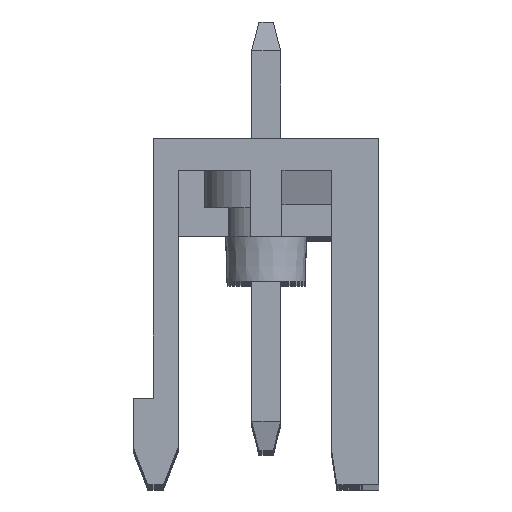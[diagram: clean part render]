
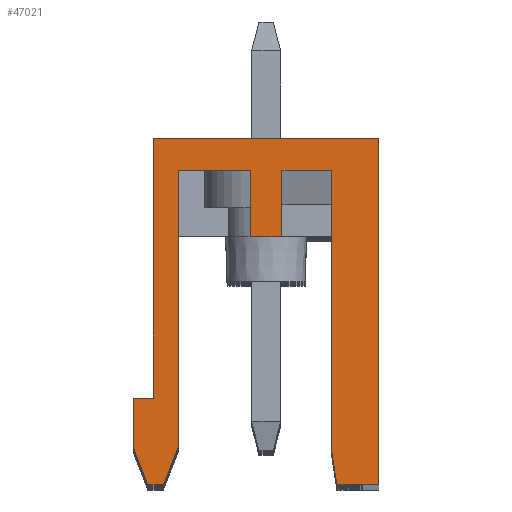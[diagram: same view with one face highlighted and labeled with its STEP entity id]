
A CAD part, top view. The second image highlights one B-rep face of the part: STEP entity #47021.
In plain terms, the highlighted planar face has unit normal (0, 0, 1).
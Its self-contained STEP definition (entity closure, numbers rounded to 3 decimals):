
#34 = CARTESIAN_POINT ( 'NONE',  ( 2.25, 10.9, 101.6 ) ) ;
#167 = EDGE_CURVE ( 'NONE', #43497, #26719, #44368, .T. ) ;
#657 = CARTESIAN_POINT ( 'NONE',  ( -4.6, 3., 101.6 ) ) ;
#688 = VECTOR ( 'NONE', #25604, 1000. ) ;
#1676 = CARTESIAN_POINT ( 'NONE',  ( 3.9, 0., 101.6 ) ) ;
#2234 = DIRECTION ( 'NONE',  ( -1., 0., 0. ) ) ;
#2729 = CARTESIAN_POINT ( 'NONE',  ( -4.1, 0., 101.6 ) ) ;
#3203 = CARTESIAN_POINT ( 'NONE',  ( -10.2, 16.267, 101.6 ) ) ;
#3247 = CARTESIAN_POINT ( 'NONE',  ( 3.9, 12., 101.6 ) ) ;
#3650 = CARTESIAN_POINT ( 'NONE',  ( 3.9, 12., 101.6 ) ) ;
#3898 = EDGE_CURVE ( 'NONE', #22739, #27004, #25515, .T. ) ;
#4148 = VECTOR ( 'NONE', #42767, 1000. ) ;
#5097 = CARTESIAN_POINT ( 'NONE',  ( -3.05, 1.3, 101.6 ) ) ;
#5399 = CARTESIAN_POINT ( 'NONE',  ( 2.25, 1.3, 101.6 ) ) ;
#5590 = LINE ( 'NONE', #5097, #35126 ) ;
#6505 = LINE ( 'NONE', #2729, #41694 ) ;
#7282 = CARTESIAN_POINT ( 'NONE',  ( -3.05, 10.9, 101.6 ) ) ;
#7521 = CARTESIAN_POINT ( 'NONE',  ( -3.9, 12., 101.6 ) ) ;
#7904 = CARTESIAN_POINT ( 'NONE',  ( 0.55, 10.9, 101.6 ) ) ;
#8061 = ORIENTED_EDGE ( 'NONE', *, *, #20414, .T. ) ;
#8324 = ORIENTED_EDGE ( 'NONE', *, *, #38917, .T. ) ;
#8899 = VECTOR ( 'NONE', #25683, 1000. ) ;
#9817 = VERTEX_POINT ( 'NONE', #7282 ) ;
#10002 = VERTEX_POINT ( 'NONE', #39504 ) ;
#10059 = CARTESIAN_POINT ( 'NONE',  ( -3.55, 0., 101.6 ) ) ;
#10648 = DIRECTION ( 'NONE',  ( 0., 1., 0. ) ) ;
#10757 = ORIENTED_EDGE ( 'NONE', *, *, #3898, .T. ) ;
#11276 = EDGE_CURVE ( 'NONE', #23248, #10002, #28913, .T. ) ;
#11332 = CARTESIAN_POINT ( 'NONE',  ( 0.55, 8.6, 101.6 ) ) ;
#12166 = CARTESIAN_POINT ( 'NONE',  ( -0.55, 8.6, 101.6 ) ) ;
#13262 = VECTOR ( 'NONE', #36530, 1000. ) ;
#13285 = VECTOR ( 'NONE', #17348, 1000. ) ;
#13506 = VERTEX_POINT ( 'NONE', #41184 ) ;
#13729 = VECTOR ( 'NONE', #10648, 1000. ) ;
#14179 = CARTESIAN_POINT ( 'NONE',  ( 0.55, 8.6, 101.6 ) ) ;
#14244 = EDGE_CURVE ( 'NONE', #25892, #9817, #29712, .T. ) ;
#15081 = CARTESIAN_POINT ( 'NONE',  ( -3.05, 10.9, 101.6 ) ) ;
#15269 = DIRECTION ( 'NONE',  ( 1., 0., 0. ) ) ;
#15680 = LINE ( 'NONE', #38611, #22337 ) ;
#15841 = ORIENTED_EDGE ( 'NONE', *, *, #46249, .T. ) ;
#15949 = ORIENTED_EDGE ( 'NONE', *, *, #11276, .T. ) ;
#16285 = DIRECTION ( 'NONE',  ( 1., 0., 0. ) ) ;
#16929 = ORIENTED_EDGE ( 'NONE', *, *, #21293, .F. ) ;
#17128 = ORIENTED_EDGE ( 'NONE', *, *, #43864, .T. ) ;
#17315 = ORIENTED_EDGE ( 'NONE', *, *, #21287, .F. ) ;
#17348 = DIRECTION ( 'NONE',  ( 1., 0., 0. ) ) ;
#17649 = CARTESIAN_POINT ( 'NONE',  ( -3.9, 3., 101.6 ) ) ;
#17889 = CARTESIAN_POINT ( 'NONE',  ( -4.6, 3., 101.6 ) ) ;
#17942 = EDGE_CURVE ( 'NONE', #48984, #24873, #5590, .T. ) ;
#18679 = VERTEX_POINT ( 'NONE', #3247 ) ;
#18727 = VECTOR ( 'NONE', #19108, 1000. ) ;
#19019 = VERTEX_POINT ( 'NONE', #39114 ) ;
#19108 = DIRECTION ( 'NONE',  ( 0., -1., 0. ) ) ;
#19544 = VECTOR ( 'NONE', #26792, 1000. ) ;
#19754 = ORIENTED_EDGE ( 'NONE', *, *, #29097, .T. ) ;
#20051 = CARTESIAN_POINT ( 'NONE',  ( -4.1, 0., 101.6 ) ) ;
#20414 = EDGE_CURVE ( 'NONE', #10002, #49495, #24815, .T. ) ;
#20455 = CARTESIAN_POINT ( 'NONE',  ( -3.9, 3., 101.6 ) ) ;
#20604 = DIRECTION ( 'NONE',  ( 0.152, -0.988, 0. ) ) ;
#20946 = DIRECTION ( 'NONE',  ( -0.359, -0.933, 0. ) ) ;
#21287 = EDGE_CURVE ( 'NONE', #22739, #32316, #44051, .T. ) ;
#21293 = EDGE_CURVE ( 'NONE', #13506, #19019, #6505, .T. ) ;
#21548 = DIRECTION ( 'NONE',  ( 1., 0., 0. ) ) ;
#22174 = ORIENTED_EDGE ( 'NONE', *, *, #14244, .F. ) ;
#22337 = VECTOR ( 'NONE', #23232, 1000. ) ;
#22739 = VERTEX_POINT ( 'NONE', #11332 ) ;
#23232 = DIRECTION ( 'NONE',  ( 0., -1., 0. ) ) ;
#23248 = VERTEX_POINT ( 'NONE', #5399 ) ;
#23803 = ORIENTED_EDGE ( 'NONE', *, *, #17942, .F. ) ;
#24031 = VECTOR ( 'NONE', #21548, 1000. ) ;
#24172 = LINE ( 'NONE', #43090, #47455 ) ;
#24815 = LINE ( 'NONE', #44236, #24031 ) ;
#24873 = VERTEX_POINT ( 'NONE', #10059 ) ;
#25151 = LINE ( 'NONE', #44065, #13285 ) ;
#25515 = LINE ( 'NONE', #14179, #13729 ) ;
#25604 = DIRECTION ( 'NONE',  ( 0., -1., 0. ) ) ;
#25683 = DIRECTION ( 'NONE',  ( 0., -1., 0. ) ) ;
#25852 = ORIENTED_EDGE ( 'NONE', *, *, #31392, .F. ) ;
#25892 = VERTEX_POINT ( 'NONE', #49719 ) ;
#26411 = LINE ( 'NONE', #15081, #18727 ) ;
#26445 = EDGE_CURVE ( 'NONE', #25892, #32316, #44777, .T. ) ;
#26719 = VERTEX_POINT ( 'NONE', #657 ) ;
#26792 = DIRECTION ( 'NONE',  ( -1., 0., 0. ) ) ;
#27004 = VERTEX_POINT ( 'NONE', #7904 ) ;
#28233 = AXIS2_PLACEMENT_3D ( 'NONE', #3203, #45762, #15269 ) ;
#28295 = EDGE_LOOP ( 'NONE', ( #17128, #39020, #19754, #31736, #15841, #16929, #48217, #23803, #25852, #22174, #29563, #17315, #10757, #8324, #41150, #15949, #8061 ) ) ;
#28913 = LINE ( 'NONE', #48320, #34411 ) ;
#29097 = EDGE_CURVE ( 'NONE', #40446, #43497, #46303, .T. ) ;
#29563 = ORIENTED_EDGE ( 'NONE', *, *, #26445, .T. ) ;
#29712 = LINE ( 'NONE', #48129, #13262 ) ;
#29904 = VERTEX_POINT ( 'NONE', #34 ) ;
#31062 = EDGE_CURVE ( 'NONE', #18679, #40446, #49486, .T. ) ;
#31392 = EDGE_CURVE ( 'NONE', #9817, #48984, #26411, .T. ) ;
#31736 = ORIENTED_EDGE ( 'NONE', *, *, #167, .T. ) ;
#32316 = VERTEX_POINT ( 'NONE', #12166 ) ;
#33199 = CARTESIAN_POINT ( 'NONE',  ( 0.55, 8.6, 101.6 ) ) ;
#33685 = VECTOR ( 'NONE', #43862, 1000. ) ;
#34411 = VECTOR ( 'NONE', #20604, 1000. ) ;
#35126 = VECTOR ( 'NONE', #20946, 1000. ) ;
#36530 = DIRECTION ( 'NONE',  ( -1., 0., 0. ) ) ;
#36545 = EDGE_CURVE ( 'NONE', #13506, #24873, #42996, .T. ) ;
#37204 = CARTESIAN_POINT ( 'NONE',  ( -0.55, 10.9, 101.6 ) ) ;
#37231 = DIRECTION ( 'NONE',  ( -0.359, 0.933, 0. ) ) ;
#37703 = PLANE ( 'NONE',  #28233 ) ;
#38611 = CARTESIAN_POINT ( 'NONE',  ( 2.25, 10.9, 101.6 ) ) ;
#38917 = EDGE_CURVE ( 'NONE', #27004, #29904, #25151, .T. ) ;
#39020 = ORIENTED_EDGE ( 'NONE', *, *, #31062, .T. ) ;
#39114 = CARTESIAN_POINT ( 'NONE',  ( -4.6, 1.3, 101.6 ) ) ;
#39504 = CARTESIAN_POINT ( 'NONE',  ( 2.45, 0., 101.6 ) ) ;
#40446 = VERTEX_POINT ( 'NONE', #43382 ) ;
#40730 = VECTOR ( 'NONE', #16285, 1000. ) ;
#41150 = ORIENTED_EDGE ( 'NONE', *, *, #41343, .T. ) ;
#41184 = CARTESIAN_POINT ( 'NONE',  ( -4.1, 0., 101.6 ) ) ;
#41343 = EDGE_CURVE ( 'NONE', #29904, #23248, #15680, .T. ) ;
#41694 = VECTOR ( 'NONE', #37231, 1000. ) ;
#41867 = CARTESIAN_POINT ( 'NONE',  ( -3.05, 1.3, 101.6 ) ) ;
#42472 = FACE_OUTER_BOUND ( 'NONE', #28295, .T. ) ;
#42488 = VECTOR ( 'NONE', #2234, 1000. ) ;
#42767 = DIRECTION ( 'NONE',  ( 0., -1., 0. ) ) ;
#42996 = LINE ( 'NONE', #20051, #40730 ) ;
#43090 = CARTESIAN_POINT ( 'NONE',  ( 3.9, 0., 101.6 ) ) ;
#43382 = CARTESIAN_POINT ( 'NONE',  ( -3.9, 12., 101.6 ) ) ;
#43497 = VERTEX_POINT ( 'NONE', #20455 ) ;
#43852 = LINE ( 'NONE', #17889, #8899 ) ;
#43862 = DIRECTION ( 'NONE',  ( -1., 0., 0. ) ) ;
#43864 = EDGE_CURVE ( 'NONE', #49495, #18679, #24172, .T. ) ;
#44051 = LINE ( 'NONE', #33199, #42488 ) ;
#44065 = CARTESIAN_POINT ( 'NONE',  ( 0.55, 10.9, 101.6 ) ) ;
#44236 = CARTESIAN_POINT ( 'NONE',  ( 2.45, 0., 101.6 ) ) ;
#44368 = LINE ( 'NONE', #17649, #33685 ) ;
#44777 = LINE ( 'NONE', #37204, #688 ) ;
#45762 = DIRECTION ( 'NONE',  ( 0., 0., 1. ) ) ;
#46249 = EDGE_CURVE ( 'NONE', #26719, #19019, #43852, .T. ) ;
#46303 = LINE ( 'NONE', #7521, #4148 ) ;
#46867 = DIRECTION ( 'NONE',  ( 0., 1., 0. ) ) ;
#47021 = ADVANCED_FACE ( 'NONE', ( #42472 ), #37703, .T. ) ;
#47455 = VECTOR ( 'NONE', #46867, 1000. ) ;
#48129 = CARTESIAN_POINT ( 'NONE',  ( -0.55, 10.9, 101.6 ) ) ;
#48217 = ORIENTED_EDGE ( 'NONE', *, *, #36545, .T. ) ;
#48320 = CARTESIAN_POINT ( 'NONE',  ( 2.25, 1.3, 101.6 ) ) ;
#48984 = VERTEX_POINT ( 'NONE', #41867 ) ;
#49486 = LINE ( 'NONE', #3650, #19544 ) ;
#49495 = VERTEX_POINT ( 'NONE', #1676 ) ;
#49719 = CARTESIAN_POINT ( 'NONE',  ( -0.55, 10.9, 101.6 ) ) ;
